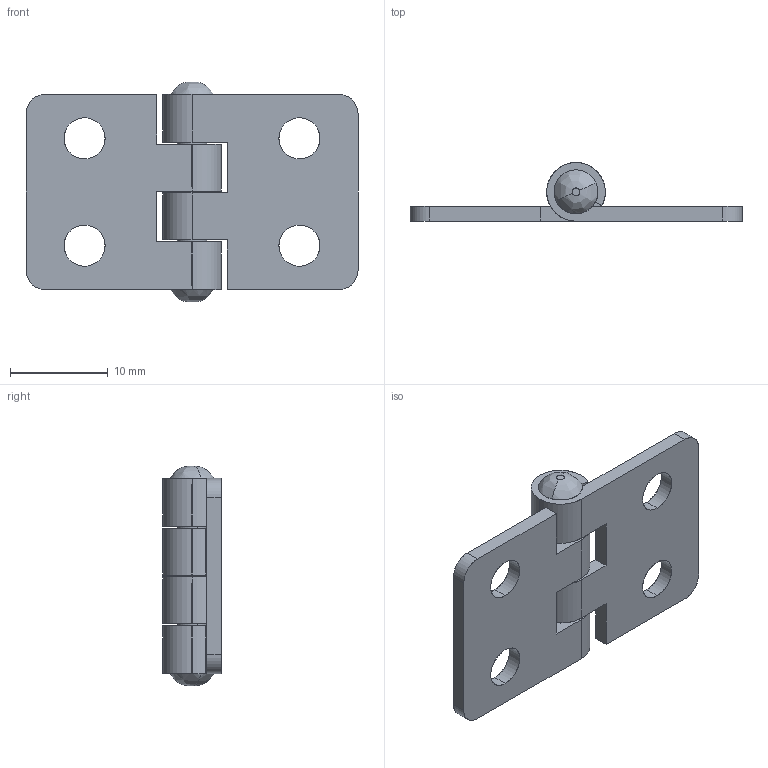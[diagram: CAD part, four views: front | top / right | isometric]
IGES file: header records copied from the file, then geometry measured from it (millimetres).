
Start section: SolidWorks IGES file using analytic representation for surfaces
Global section: file name: C:\Users\cbrechard\Desktop\CC 447.IGS; native system: SolidWorks 2017; preprocessor: SolidWorks 2017; author: cbrechard; date: 180222.101028; units: millimetre
Bounding box: 34 x 6 x 22.5 mm (x, y, z)
Surface area: 2256.1 mm2 (no closed solid volume)
Topology: 0 solids, 0 shells, 70 faces, 1184 edges, 1184 vertices
Faces by surface type: revolution 38, bspline 32
